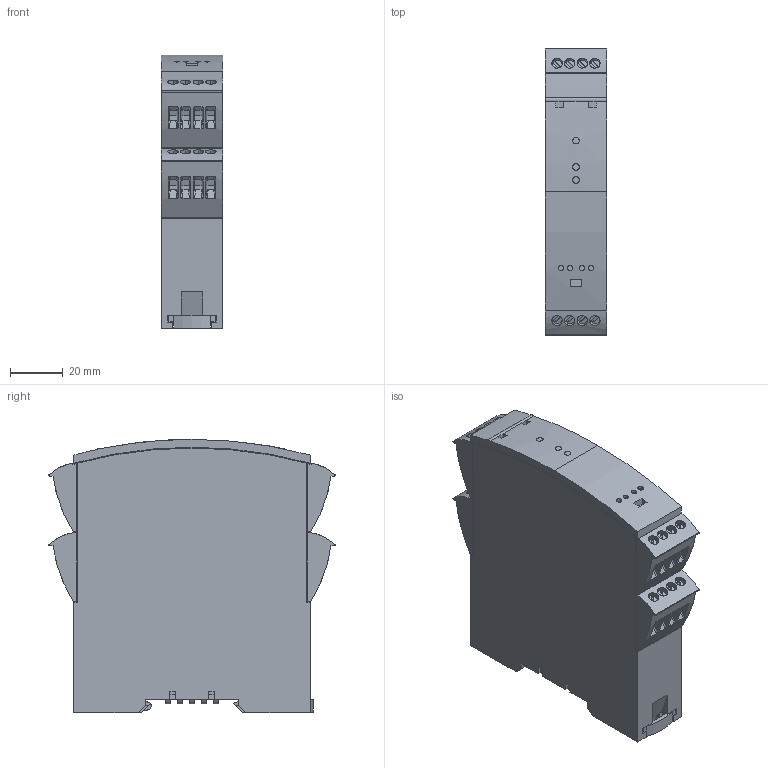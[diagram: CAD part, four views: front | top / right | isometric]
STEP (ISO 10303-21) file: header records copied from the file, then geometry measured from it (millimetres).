
FILE_DESCRIPTION (( 'STEP AP214' ), '1' );
FILE_NAME ('4000_6000_9000 Complete asm.STEP', '2017-05-19T10:00:29', ( '' ), ( '' ), 'SwSTEP 2.0', 'SolidWorks 2017', '' );
FILE_SCHEMA (( 'AUTOMOTIVE_DESIGN' ));
Length unit declared in the file: millimetre
Products named in the file (4): 4000_6000_9000 Housing; Lock Bottom; Lock Top; 4000_6000_9000 Complete asm
Assembly tree (3 placements, depth 2):
  4000_6000_9000 Complete asm
    4000_6000_9000 Housing
    Lock Top
    Lock Bottom
Bounding box: 23.5 x 109 x 104 mm (x, y, z)
Volume: 218913.5 mm3; surface area: 35888.7 mm2
Topology: 3 solids, 3 shells, 669 faces, 1843 edges, 1226 vertices
Faces by surface type: plane 470, cylinder 195, bspline 4
Entity records: 22937 total; most frequent: CARTESIAN_POINT 6168, ORIENTED_EDGE 3686, DIRECTION 3175, EDGE_CURVE 1843, LINE 1269, VECTOR 1269, VERTEX_POINT 1226, AXIS2_PLACEMENT_3D 953
